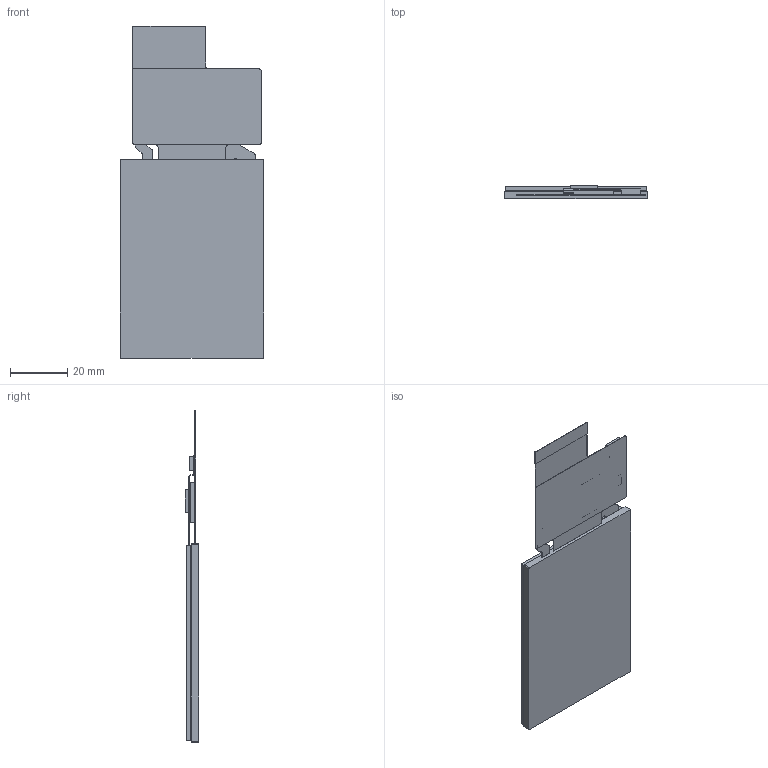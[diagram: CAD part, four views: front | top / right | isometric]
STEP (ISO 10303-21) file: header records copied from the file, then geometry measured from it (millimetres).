
FILE_DESCRIPTION((''),'2;1');
FILE_NAME('DMG32240F028_01WTC','2024-09-30T',('Administrator'),(''),'PRO/ENGINEER BY PARAMETRIC TECHNOLOGY CORPORATION, 2008380','PRO/ENGINEER BY PARAMETRIC TECHNOLOGY CORPORATION, 2008380','');
FILE_SCHEMA(('CONFIG_CONTROL_DESIGN'));
Length unit declared in the file: millimetre
Products named in the file (1): DMG32240F028_01WTC
Bounding box: 50.3 x 4.58 x 116 mm (x, y, z)
Volume: 15280.6 mm3; surface area: 18408.3 mm2
Topology: 1 solids, 1 shells, 121 faces, 1036 edges, 1033 vertices
Faces by surface type: plane 91, cylinder 30
Entity records: 8236 total; most frequent: DIRECTION 1412, CARTESIAN_POINT 1386, VECTOR 908, LINE 908, TRIMMED_CURVE 696, ORIENTED_EDGE 680, COMPOSITE_CURVE_SEGMENT 613, EDGE_CURVE 340
